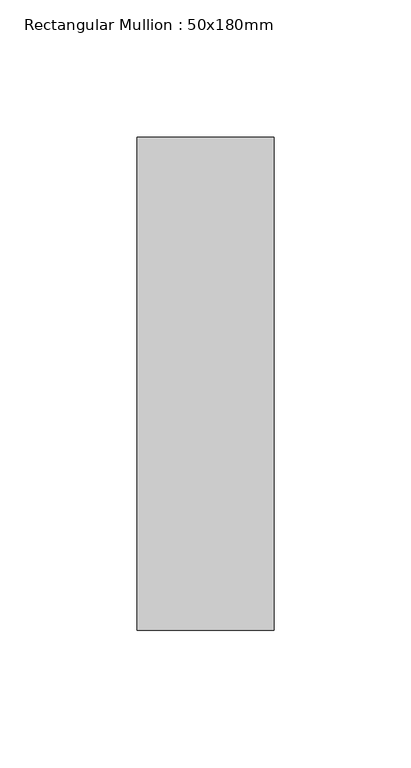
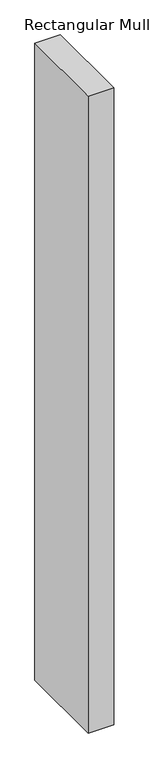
"""IFC4 building model written with IfcOpenShell, lengths in millimetres: member geometry, Rectangular Mullion : 50x180mm."""

from ifc_helpers import new_model, si_unit, frame, origin, place, context, project, spatial, polyline, outline, extrude, source, transform, mapped, element, save


def rectangular_mullion_50x180mm_34097c7e(model_context):
    return source(origin(), model_context, "Body", "SweptSolid", [
        extrude(outline(polyline([(25.0, 90.0), (25.0, -90.0), (-25.0, -90.0), (-25.0, 90.0), (25.0, 90.0)])), frame((0.0, 0.0, -1315.8333333), z_axis=(0.0, 0.0, 1.0), x_axis=(1.0, 0.0, 0.0)), (0.0, 0.0, 1.0), 1315.8333333),
    ])


if __name__ == "__main__":
    model = new_model("IFC4")
    model_context = context("Model", 3, world=origin())
    ifc_project = project(units=[si_unit("LENGTHUNIT", "METRE", prefix="MILLI")], contexts=[model_context])
    site = spatial("IfcSite", under=ifc_project)
    building = spatial("IfcBuilding", under=site)
    placement = place(None, origin())
    rectangular_mullion_50x180mm_shape = rectangular_mullion_50x180mm_34097c7e(model_context)
    element("IfcMember", 1, ObjectType="Rectangular Mullion : 50x180mm", at=placement, inside=building, context=model_context, shape_type="MappedRepresentation", body=[
        mapped(rectangular_mullion_50x180mm_shape, transform((0.0, 0.0, 0.0), x_axis=(1.0, 0.0, 0.0), y_axis=(0.0, 1.0, 0.0), z_axis=(0.0, 0.0, 1.0))),
    ])
    save(model, "model.ifc")
